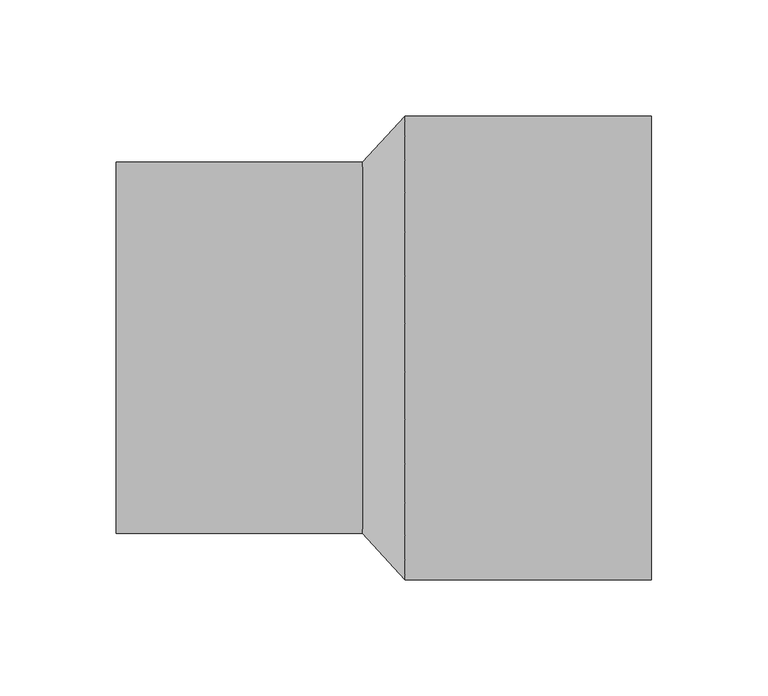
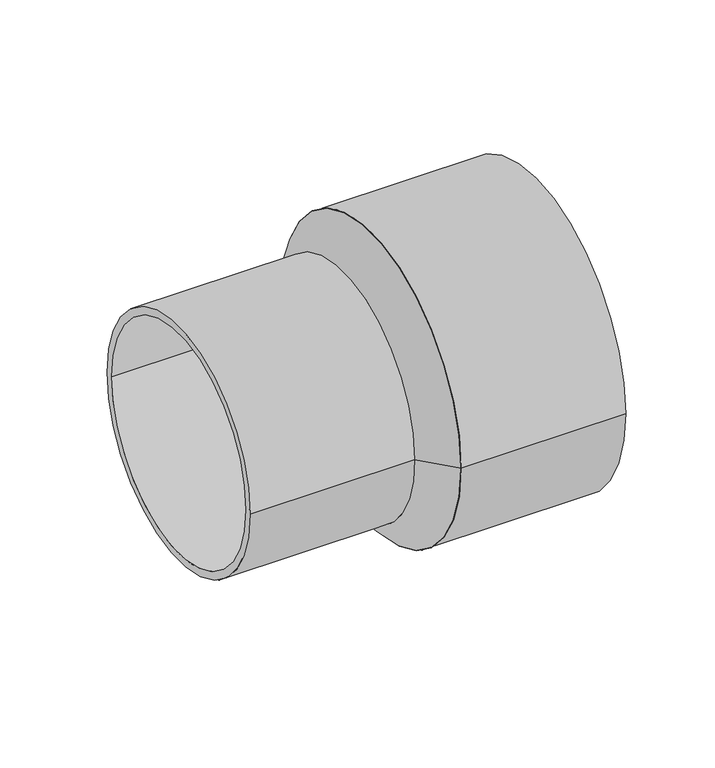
"""IFC4 building model written with IfcOpenShell, lengths in millimetres: pipe fitting geometry, EGB_VASEN_ PPR_Manguito reductor a tope WXRB110 : Manguito reductor a tope WXRB110."""

from ifc_helpers import new_model, si_unit, point, frame, origin, origin_2d, place, context, project, spatial, polyline, circle_curve, trimmed, segment, composite_curve, outline, extrude, source, transform, mapped, element, save
from ifc_brep_helpers import plane_surface, revolved_surface, advanced_brep


def pipe_fitting_01ab5163(model_context):
    return source(origin(), model_context, "Body", "SolidModel", [
        extrude(outline(composite_curve([segment(trimmed(circle_curve(origin_2d(), 100.0), [point((-100.0, 0.0))], [point((100.0, 0.0))], False, "CARTESIAN"), True, "CONTINUOUS"), segment(trimmed(circle_curve(origin_2d(), 100.0), [point((100.0, 0.0))], [point((-100.0, 0.0))], False, "CARTESIAN"), True, "CONTINUOUS")], self_intersect=False), holes=[composite_curve([segment(trimmed(circle_curve(origin_2d(), 95.0), [point((-95.0, 0.0))], [point((95.0, 0.0))], True, "CARTESIAN"), True, "CONTINUOUS"), segment(trimmed(circle_curve(origin_2d(), 95.0), [point((95.0, 0.0))], [point((-95.0, 0.0))], True, "CARTESIAN"), True, "CONTINUOUS")], self_intersect=False)]), frame((9.24, 0.0, 0.0), z_axis=(1.0, 0.0, 0.0), x_axis=(0.0, 1.0, 0.0)), (0.0, 0.0, 1.0), 106.26),
        extrude(outline(composite_curve([segment(trimmed(circle_curve(origin_2d(), 80.0), [point((-80.0, 0.0))], [point((80.0, 0.0))], False, "CARTESIAN"), True, "CONTINUOUS"), segment(trimmed(circle_curve(origin_2d(), 80.0), [point((80.0, 0.0))], [point((-80.0, 0.0))], False, "CARTESIAN"), True, "CONTINUOUS")], self_intersect=False), holes=[composite_curve([segment(trimmed(circle_curve(origin_2d(), 75.0), [point((-75.0, 0.0))], [point((75.0, 0.0))], True, "CARTESIAN"), True, "CONTINUOUS"), segment(trimmed(circle_curve(origin_2d(), 75.0), [point((75.0, 0.0))], [point((-75.0, 0.0))], True, "CARTESIAN"), True, "CONTINUOUS")], self_intersect=False)]), frame((-115.5, 0.0, 0.0), z_axis=(1.0, 0.0, 0.0), x_axis=(0.0, 1.0, 0.0)), (0.0, 0.0, 1.0), 106.26),
        advanced_brep(
        [(9.24, -100.0, 0.0), (9.24, 100.0, 0.0), (-9.24, -80.0, 0.0), (-9.24, 80.0, 0.0)],
        [
            (0, 1, circle_curve(frame((9.24, 0.0, 0.0), z_axis=(1.0, 0.0, 0.0), x_axis=(0.0, -1.0, 0.0)), 100.0)),
            (1, 0, circle_curve(frame((9.24, 0.0, 0.0), z_axis=(1.0, 0.0, 0.0), x_axis=(0.0, 1.0, 0.0)), 100.0)),
            (2, 3, circle_curve(frame((-9.24, 0.0, 0.0), z_axis=(-1.0, 0.0, 0.0), x_axis=(0.0, 1.0, 0.0)), 80.0)),
            (3, 2, circle_curve(frame((-9.24, 0.0, 0.0), z_axis=(-1.0, 0.0, 0.0), x_axis=(0.0, -1.0, 0.0)), 80.0)),
            (3, 1),
            (0, 2),
        ],
        [
            plane_surface(frame((9.24, 0.0, 0.0), z_axis=(1.0, 0.0, 0.0), x_axis=(0.0, 0.0, -1.0))),
            plane_surface(frame((-9.24, 0.0, 0.0), z_axis=(-1.0, 0.0, 0.0), x_axis=(0.0, 0.0, -1.0))),
            revolved_surface(polyline([(-9.239999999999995, 80.0, 0.0), (9.239999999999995, 100.0, 0.0)]), (-83.16, 0.0, 0.0), (1.0, 0.0, 0.0)),
            revolved_surface(polyline([(-9.239999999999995, -80.0, 0.0), (9.239999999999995, -100.0, 0.0)]), (-83.16, 0.0, 0.0), (1.0, 0.0, 0.0)),
        ],
        [
            (0, [[1, 2]]),
            (1, [[3, 4]]),
            (2, [[-4, 5, -1, 6]]),
            (3, [[-3, -6, -2, -5]]),
        ],
    ),
    ])


if __name__ == "__main__":
    model = new_model("IFC4")
    model_context = context("Model", 3, world=origin())
    ifc_project = project(units=[si_unit("LENGTHUNIT", "METRE", prefix="MILLI")], contexts=[model_context])
    site = spatial("IfcSite", under=ifc_project)
    building = spatial("IfcBuilding", under=site)
    placement = place(None, origin())
    pipe_fitting_shape = pipe_fitting_01ab5163(model_context)
    element("IfcPipeFitting", 1, ObjectType="EGB_VASEN_ PPR_Manguito reductor a tope WXRB110 : Manguito reductor a tope WXRB110", at=placement, inside=building, context=model_context, shape_type="MappedRepresentation", body=[
        mapped(pipe_fitting_shape, transform((0.0, 0.0, 0.0), x_axis=(1.0, 0.0, 0.0), y_axis=(0.0, 1.0, 0.0), z_axis=(0.0, 0.0, 1.0))),
    ])
    save(model, "model.ifc")
